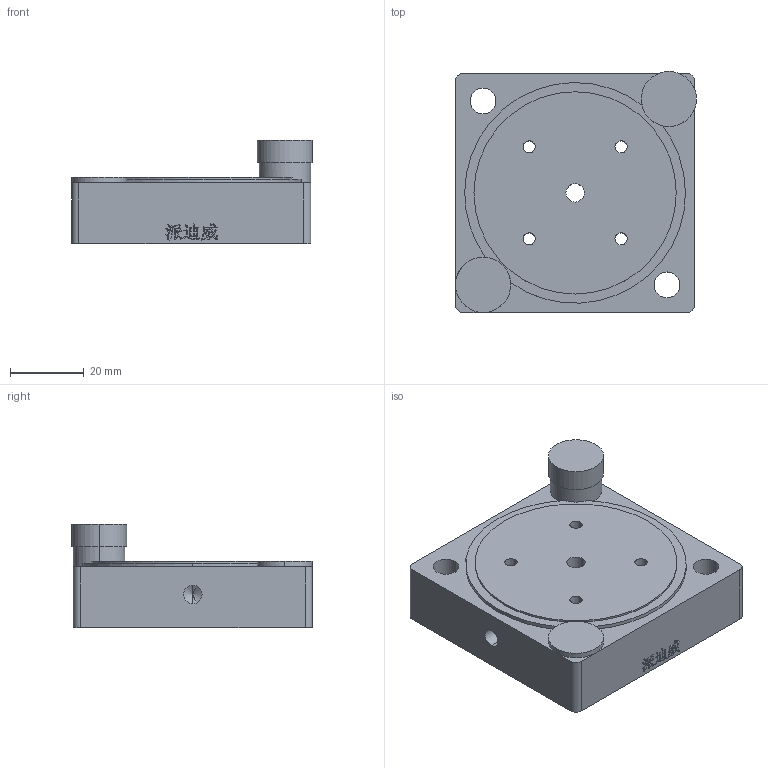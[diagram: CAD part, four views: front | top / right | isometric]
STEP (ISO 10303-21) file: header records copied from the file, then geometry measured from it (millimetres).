
FILE_DESCRIPTION (( 'STEP AP203' ), '1' );
FILE_NAME ('PT-R50.8.STEP', '2022-09-03T08:53:40', ( '' ), ( '' ), 'SwSTEP 2.0', 'SolidWorks 2020', '' );
FILE_SCHEMA (( 'CONFIG_CONTROL_DESIGN' ));
Length unit declared in the file: millimetre
Products named in the file (1): PT-R50.8
Bounding box: 65.5 x 65.5 x 28 mm (x, y, z)
Volume: 73238.9 mm3; surface area: 15718.6 mm2
Topology: 1 solids, 1 shells, 230 faces, 622 edges, 411 vertices
Faces by surface type: plane 121, bspline 76, cylinder 31, cone 2
Entity records: 10381 total; most frequent: CARTESIAN_POINT 4954, ORIENTED_EDGE 1240, DIRECTION 846, EDGE_CURVE 620, VERTEX_POINT 411, LINE 400, VECTOR 400, EDGE_LOOP 263
